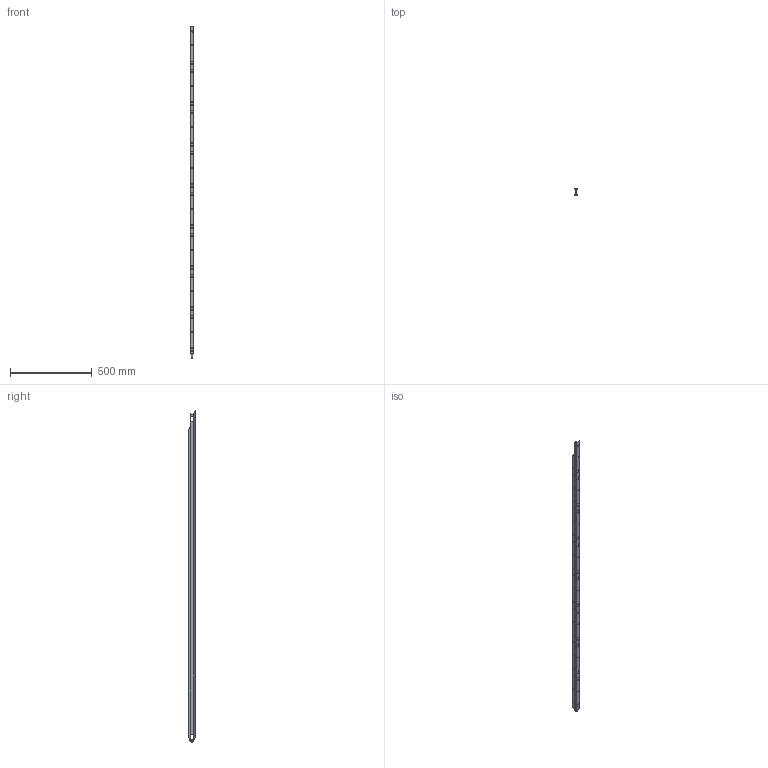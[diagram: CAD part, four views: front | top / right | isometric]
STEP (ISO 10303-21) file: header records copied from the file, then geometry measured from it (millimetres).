
FILE_DESCRIPTION(/* description */ ('Führungsschiene gerade mit Schleuse 2250mm'),/* implementation_level */ '2;1');
FILE_NAME(/* name */ 'X:\02_Führungsschiene\AT9100-xxxx\146115 Führungsschiene gerade mit Schleuse 2000mm Index00.stp',/* time_stamp */ '2015-11-26T15:48:38+01:00',/* author */ ('UweB'),/* organization */ ('Beckhoff Automation'),/* preprocessor_version */ 'ST-DEVELOPER v15.6',/* originating_system */ 'Autodesk Inventor 2015',/* authorisation */ '');
FILE_SCHEMA (('AUTOMOTIVE_DESIGN { 1 0 10303 214 3 1 1 }'));
Length unit declared in the file: millimetre
Products named in the file (1): xxxxxx Führungsschiene gerade mit Schleuse 2000mm
Bounding box: 22.2 x 39 x 2026.1 mm (x, y, z)
Volume: 792907.9 mm3; surface area: 282211.2 mm2
Topology: 1 solids, 1 shells, 204 faces, 488 edges, 323 vertices
Faces by surface type: cylinder 98, plane 98, cone 8
Full cylindrical faces by diameter (mm): 3.242 x2, 3.5 x2, 4 x5, 4.5 x23, 5 x1, 8 x23
Entity records: 5839 total; most frequent: CARTESIAN_POINT 1077, DIRECTION 1019, ORIENTED_EDGE 830, EDGE_CURVE 415, AXIS2_PLACEMENT_3D 406, EDGE_LOOP 361, VERTEX_POINT 312, LINE 207
